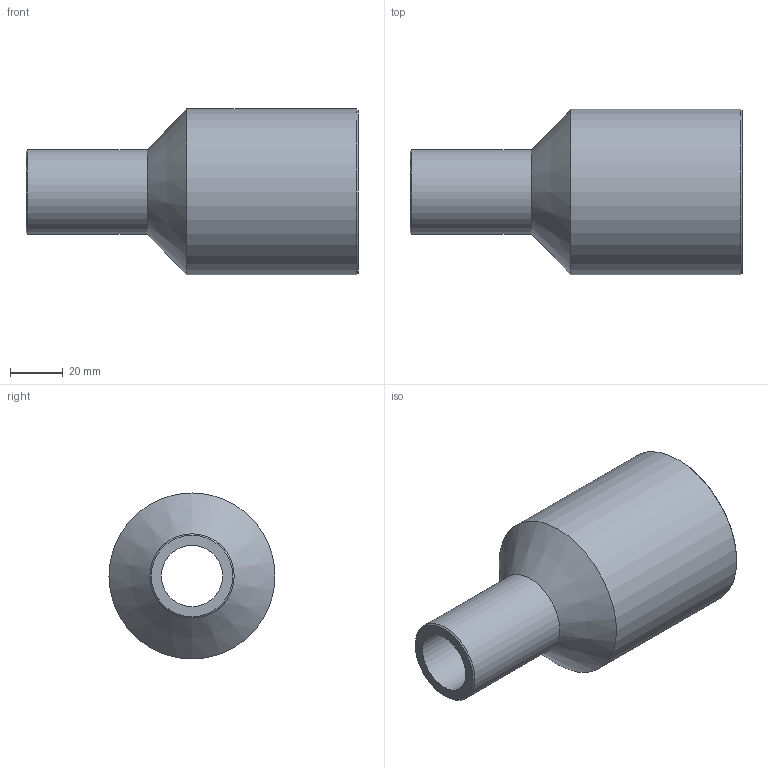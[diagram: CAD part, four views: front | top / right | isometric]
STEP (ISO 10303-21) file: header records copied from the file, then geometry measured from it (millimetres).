
FILE_DESCRIPTION(/* description */ ('Unknown'),/* implementation_level */ '2;1');
FILE_NAME(/* name */ 'RP063032H',/* time_stamp */ '2021-09-16T11:25:41+02:00',/* author */ ('Unknown'),/* organization */ ('Unknown'),/* preprocessor_version */ 'ST-DEVELOPER v16.7',/* originating_system */ 'Solid Edge',/* authorisation */ 'Unknown');
FILE_SCHEMA (('AUTOMOTIVE_DESIGN {1 0 10303 214 3 1 1}'));
Length unit declared in the file: millimetre
Products named in the file (1): RP063032H
Bounding box: 126 x 63 x 63 mm (x, y, z)
Volume: 132305.2 mm3; surface area: 36817.1 mm2
Topology: 1 solids, 1 shells, 10 faces, 19 edges, 11 vertices
Faces by surface type: cylinder 4, cone 4, plane 2
Full cylindrical faces by diameter (mm): 23.2 x1, 32 x1, 45.8 x1, 63 x1
Entity records: 238 total; most frequent: DIRECTION 42, CARTESIAN_POINT 31, AXIS2_PLACEMENT_3D 21, ORIENTED_EDGE 20, EDGE_LOOP 20, FACE_BOUND 20, EDGE_CURVE 10, VERTEX_POINT 10
